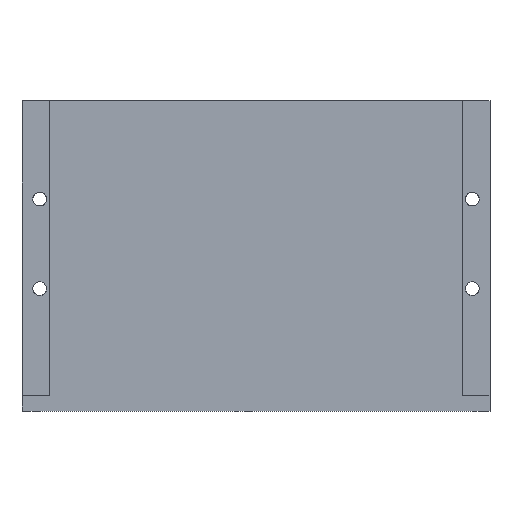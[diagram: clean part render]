
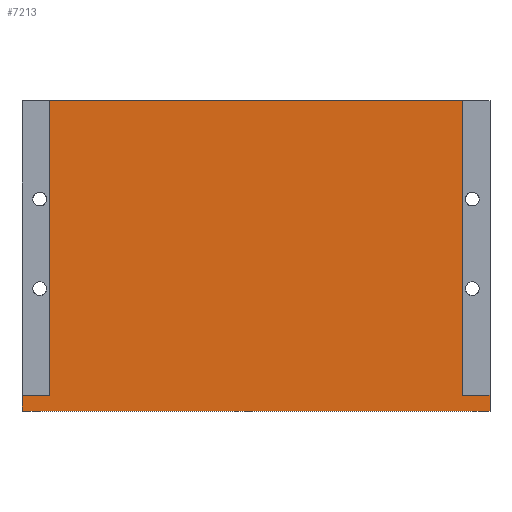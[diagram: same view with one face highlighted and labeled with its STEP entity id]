
A CAD part, top view. The second image highlights one B-rep face of the part: STEP entity #7213.
In plain terms, the highlighted planar face has unit normal (0, 0, 1).
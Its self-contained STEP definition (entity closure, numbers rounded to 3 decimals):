
#316 = LINE ( 'NONE', #630, #6159 ) ;
#573 = LINE ( 'NONE', #5913, #6859 ) ;
#630 = CARTESIAN_POINT ( 'NONE',  ( -59.5, -41.5, 29. ) ) ;
#707 = EDGE_CURVE ( 'NONE', #7171, #2173, #316, .T. ) ;
#756 = CARTESIAN_POINT ( 'NONE',  ( 0., 0., 29. ) ) ;
#895 = LINE ( 'NONE', #2184, #3198 ) ;
#966 = CARTESIAN_POINT ( 'NONE',  ( 52.5, -37.5, 29. ) ) ;
#979 = CARTESIAN_POINT ( 'NONE',  ( -59.5, -37.5, 29. ) ) ;
#1431 = LINE ( 'NONE', #1655, #5428 ) ;
#1440 = LINE ( 'NONE', #966, #5438 ) ;
#1655 = CARTESIAN_POINT ( 'NONE',  ( -59.5, -41.5, 29. ) ) ;
#2128 = VERTEX_POINT ( 'NONE', #4538 ) ;
#2173 = VERTEX_POINT ( 'NONE', #6224 ) ;
#2184 = CARTESIAN_POINT ( 'NONE',  ( 59.5, -41.5, 29. ) ) ;
#2245 = LINE ( 'NONE', #4738, #6237 ) ;
#2385 = AXIS2_PLACEMENT_3D ( 'NONE', #756, #4066, #2970 ) ;
#2567 = CARTESIAN_POINT ( 'NONE',  ( 52.5, 37.5, 29. ) ) ;
#2706 = VERTEX_POINT ( 'NONE', #4354 ) ;
#2762 = EDGE_CURVE ( 'NONE', #6176, #2706, #5519, .T. ) ;
#2964 = VECTOR ( 'NONE', #5113, 1000. ) ;
#2970 = DIRECTION ( 'NONE',  ( -1., 0., 0. ) ) ;
#3050 = ORIENTED_EDGE ( 'NONE', *, *, #5051, .T. ) ;
#3198 = VECTOR ( 'NONE', #4979, 1000. ) ;
#3751 = VECTOR ( 'NONE', #7224, 1000. ) ;
#3841 = CARTESIAN_POINT ( 'NONE',  ( -59.5, -37.5, 29. ) ) ;
#4066 = DIRECTION ( 'NONE',  ( 0., 0., -1. ) ) ;
#4172 = VERTEX_POINT ( 'NONE', #2567 ) ;
#4234 = DIRECTION ( 'NONE',  ( -1., 0., 0. ) ) ;
#4353 = ORIENTED_EDGE ( 'NONE', *, *, #6939, .F. ) ;
#4354 = CARTESIAN_POINT ( 'NONE',  ( -52.5, -37.5, 29. ) ) ;
#4362 = DIRECTION ( 'NONE',  ( 0., 1., 0. ) ) ;
#4529 = DIRECTION ( 'NONE',  ( 0., 1., 0. ) ) ;
#4538 = CARTESIAN_POINT ( 'NONE',  ( 52.5, -37.5, 29. ) ) ;
#4546 = LINE ( 'NONE', #3841, #3751 ) ;
#4563 = ORIENTED_EDGE ( 'NONE', *, *, #6164, .T. ) ;
#4708 = ORIENTED_EDGE ( 'NONE', *, *, #6284, .F. ) ;
#4738 = CARTESIAN_POINT ( 'NONE',  ( -59.5, -37.5, 29. ) ) ;
#4864 = VERTEX_POINT ( 'NONE', #979 ) ;
#4964 = ORIENTED_EDGE ( 'NONE', *, *, #2762, .T. ) ;
#4976 = ORIENTED_EDGE ( 'NONE', *, *, #6152, .F. ) ;
#4979 = DIRECTION ( 'NONE',  ( 0., -1., 0. ) ) ;
#5048 = FACE_OUTER_BOUND ( 'NONE', #7024, .T. ) ;
#5051 = EDGE_CURVE ( 'NONE', #4172, #6176, #573, .T. ) ;
#5113 = DIRECTION ( 'NONE',  ( 0., -1., 0. ) ) ;
#5245 = ORIENTED_EDGE ( 'NONE', *, *, #5952, .F. ) ;
#5308 = DIRECTION ( 'NONE',  ( 1., 0., 0. ) ) ;
#5428 = VECTOR ( 'NONE', #4529, 1000. ) ;
#5438 = VECTOR ( 'NONE', #4362, 1000. ) ;
#5502 = CARTESIAN_POINT ( 'NONE',  ( -52.5, 37.5, 29. ) ) ;
#5519 = LINE ( 'NONE', #6849, #2964 ) ;
#5913 = CARTESIAN_POINT ( 'NONE',  ( -52.5, 37.5, 29. ) ) ;
#5951 = ORIENTED_EDGE ( 'NONE', *, *, #707, .F. ) ;
#5952 = EDGE_CURVE ( 'NONE', #4864, #2706, #2245, .T. ) ;
#6152 = EDGE_CURVE ( 'NONE', #2128, #7133, #4546, .T. ) ;
#6159 = VECTOR ( 'NONE', #7310, 1000. ) ;
#6164 = EDGE_CURVE ( 'NONE', #2128, #4172, #1440, .T. ) ;
#6176 = VERTEX_POINT ( 'NONE', #5502 ) ;
#6224 = CARTESIAN_POINT ( 'NONE',  ( -59.5, -41.5, 29. ) ) ;
#6237 = VECTOR ( 'NONE', #5308, 1000. ) ;
#6284 = EDGE_CURVE ( 'NONE', #2173, #4864, #1431, .T. ) ;
#6372 = CARTESIAN_POINT ( 'NONE',  ( 59.5, -37.5, 29. ) ) ;
#6424 = PLANE ( 'NONE',  #2385 ) ;
#6849 = CARTESIAN_POINT ( 'NONE',  ( -52.5, -37.5, 29. ) ) ;
#6859 = VECTOR ( 'NONE', #4234, 1000. ) ;
#6906 = CARTESIAN_POINT ( 'NONE',  ( 59.5, -41.5, 29. ) ) ;
#6939 = EDGE_CURVE ( 'NONE', #7133, #7171, #895, .T. ) ;
#7024 = EDGE_LOOP ( 'NONE', ( #4563, #3050, #4964, #5245, #4708, #5951, #4353, #4976 ) ) ;
#7133 = VERTEX_POINT ( 'NONE', #6372 ) ;
#7171 = VERTEX_POINT ( 'NONE', #6906 ) ;
#7213 = ADVANCED_FACE ( 'NONE', ( #5048 ), #6424, .F. ) ;
#7224 = DIRECTION ( 'NONE',  ( 1., 0., 0. ) ) ;
#7310 = DIRECTION ( 'NONE',  ( -1., 0., 0. ) ) ;
